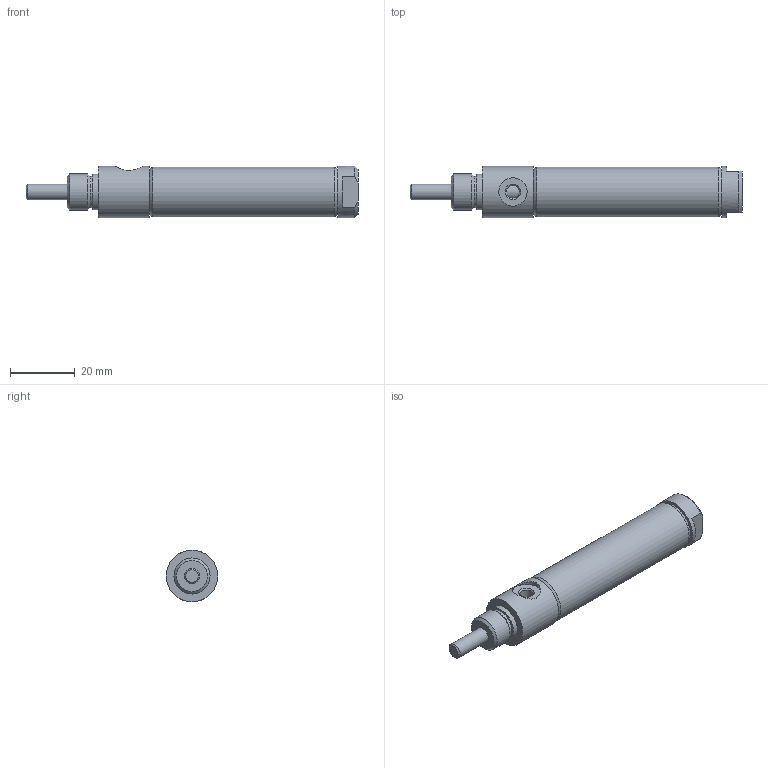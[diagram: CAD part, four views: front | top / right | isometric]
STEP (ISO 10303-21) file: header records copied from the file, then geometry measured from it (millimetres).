
FILE_DESCRIPTION( ( 'STEP AP214' ), '1' );
FILE_NAME( 'p:/temp/worker_450/temp/exporttempdir_1900_45_nNk7g/format_0/0563D01-01A-03.stp', '2020-05-07T13:21:10', ( 'License CC BY-ND 4.0' ), ( 'CADENAS' ), ' ', 'PARTsolutions', ' ' );
FILE_SCHEMA( ( 'AUTOMOTIVE_DESIGN { 1 0 10303 214 1 1 1 1 }' ) );
Length unit declared in the file: inch
Products named in the file (3): 0563D01-01A-03; _0563D01-01A-030b; _0563D01-01A-030r
Assembly tree (2 placements, depth 2):
  0563D01-01A-03
    _0563D01-01A-030b
    _0563D01-01A-030r
Bounding box: 102.39 x 15.88 x 15.88 mm (x, y, z)
Volume: 12297.1 mm3; surface area: 10684.2 mm2
Topology: 2 solids, 2 shells, 42 faces, 77 edges, 49 vertices
Faces by surface type: plane 18, cylinder 15, cone 9
Full cylindrical faces by diameter (mm): 3.967 x2, 4.775 x3, 4.826 x1, 8.738 x1, 9.601 x1, 11.1 x1, 11.112 x1, 14.287 x2, 15.392 x1, 15.875 x2
Entity records: 1446 total; most frequent: CARTESIAN_POINT 289, DIRECTION 176, ORIENTED_EDGE 106, AXIS2_PLACEMENT_3D 84, EDGE_LOOP 78, FACE_OUTER_BOUND 57, EDGE_CURVE 53, VERTEX_POINT 47
